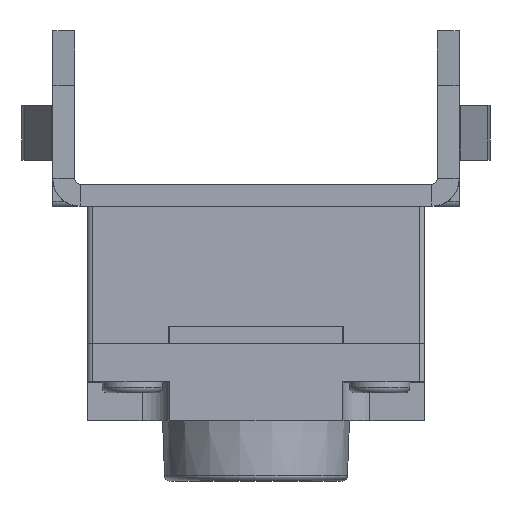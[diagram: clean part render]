
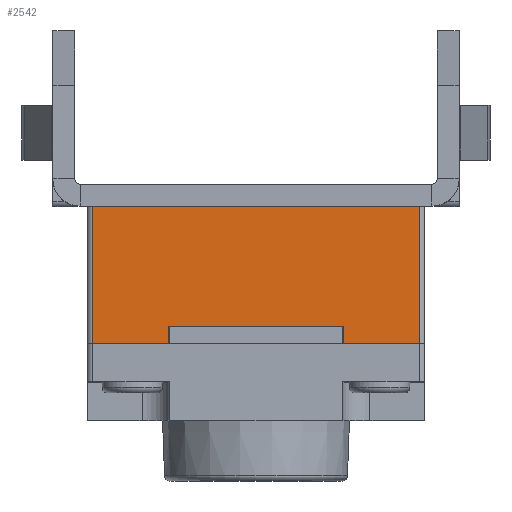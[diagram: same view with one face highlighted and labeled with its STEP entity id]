
A CAD part, top view. The second image highlights one B-rep face of the part: STEP entity #2542.
In plain terms, the highlighted planar face has unit normal (0, 0, 1).
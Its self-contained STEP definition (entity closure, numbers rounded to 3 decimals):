
#156=DIRECTION('',(1.,0.,0.));
#157=VECTOR('',#156,1.375);
#158=CARTESIAN_POINT('',(1.6,0.,3.075));
#159=LINE('',#158,#157);
#215=DIRECTION('',(1.,0.,0.));
#216=VECTOR('',#215,1.375);
#217=CARTESIAN_POINT('',(-2.975,0.,3.075));
#218=LINE('',#217,#216);
#1160=DIRECTION('',(1.,0.,0.));
#1161=VECTOR('',#1160,5.95);
#1162=CARTESIAN_POINT('',(-2.975,2.5,3.075));
#1163=LINE('',#1162,#1161);
#1231=DIRECTION('',(1.,0.,0.));
#1232=VECTOR('',#1231,3.2);
#1233=CARTESIAN_POINT('',(-1.6,0.3,3.075));
#1234=LINE('',#1233,#1232);
#1238=DIRECTION('',(0.,1.,0.));
#1239=VECTOR('',#1238,0.3);
#1240=CARTESIAN_POINT('',(-1.6,0.,3.075));
#1241=LINE('',#1240,#1239);
#1245=DIRECTION('',(0.,-1.,0.));
#1246=VECTOR('',#1245,2.5);
#1247=CARTESIAN_POINT('',(-2.975,2.5,3.075));
#1248=LINE('',#1247,#1246);
#1252=DIRECTION('',(0.,-1.,0.));
#1253=VECTOR('',#1252,2.5);
#1254=CARTESIAN_POINT('',(2.975,2.5,3.075));
#1255=LINE('',#1254,#1253);
#1259=DIRECTION('',(0.,1.,0.));
#1260=VECTOR('',#1259,0.3);
#1261=CARTESIAN_POINT('',(1.6,0.,3.075));
#1262=LINE('',#1261,#1260);
#1406=CARTESIAN_POINT('',(-2.975,0.,3.075));
#1408=VERTEX_POINT('',#1406);
#1412=CARTESIAN_POINT('',(-2.975,2.5,3.075));
#1413=VERTEX_POINT('',#1412);
#1415=CARTESIAN_POINT('',(2.975,0.,3.075));
#1417=VERTEX_POINT('',#1415);
#1418=CARTESIAN_POINT('',(2.975,2.5,3.075));
#1419=VERTEX_POINT('',#1418);
#1484=CARTESIAN_POINT('',(1.6,0.,3.075));
#1485=VERTEX_POINT('',#1484);
#1486=CARTESIAN_POINT('',(-1.6,0.,3.075));
#1488=VERTEX_POINT('',#1486);
#1510=CARTESIAN_POINT('',(-1.6,0.3,3.075));
#1511=CARTESIAN_POINT('',(1.6,0.3,3.075));
#1512=VERTEX_POINT('',#1510);
#1513=VERTEX_POINT('',#1511);
#2524=CARTESIAN_POINT('',(-3.075,0.,3.075));
#2525=DIRECTION('',(0.,0.,1.));
#2526=DIRECTION('',(1.,0.,0.));
#2527=AXIS2_PLACEMENT_3D('',#2524,#2525,#2526);
#2528=PLANE('',#2527);
#2529=ORIENTED_EDGE('',*,*,#2356,.F.);
#2531=ORIENTED_EDGE('',*,*,#2530,.F.);
#2532=ORIENTED_EDGE('',*,*,#1601,.F.);
#2534=ORIENTED_EDGE('',*,*,#2533,.F.);
#2535=ORIENTED_EDGE('',*,*,#2445,.T.);
#2537=ORIENTED_EDGE('',*,*,#2536,.T.);
#2538=ORIENTED_EDGE('',*,*,#1571,.F.);
#2539=ORIENTED_EDGE('',*,*,#2519,.T.);
#2540=EDGE_LOOP('',(#2529,#2531,#2532,#2534,#2535,#2537,#2538,#2539));
#2541=FACE_OUTER_BOUND('',#2540,.F.);
#1571=EDGE_CURVE('',#1485,#1417,#159,.T.);
#1601=EDGE_CURVE('',#1408,#1488,#218,.T.);
#2356=EDGE_CURVE('',#1512,#1513,#1234,.T.);
#2445=EDGE_CURVE('',#1413,#1419,#1163,.T.);
#2519=EDGE_CURVE('',#1485,#1513,#1262,.T.);
#2530=EDGE_CURVE('',#1488,#1512,#1241,.T.);
#2533=EDGE_CURVE('',#1413,#1408,#1248,.T.);
#2536=EDGE_CURVE('',#1419,#1417,#1255,.T.);
#2542=ADVANCED_FACE('',(#2541),#2528,.T.);
